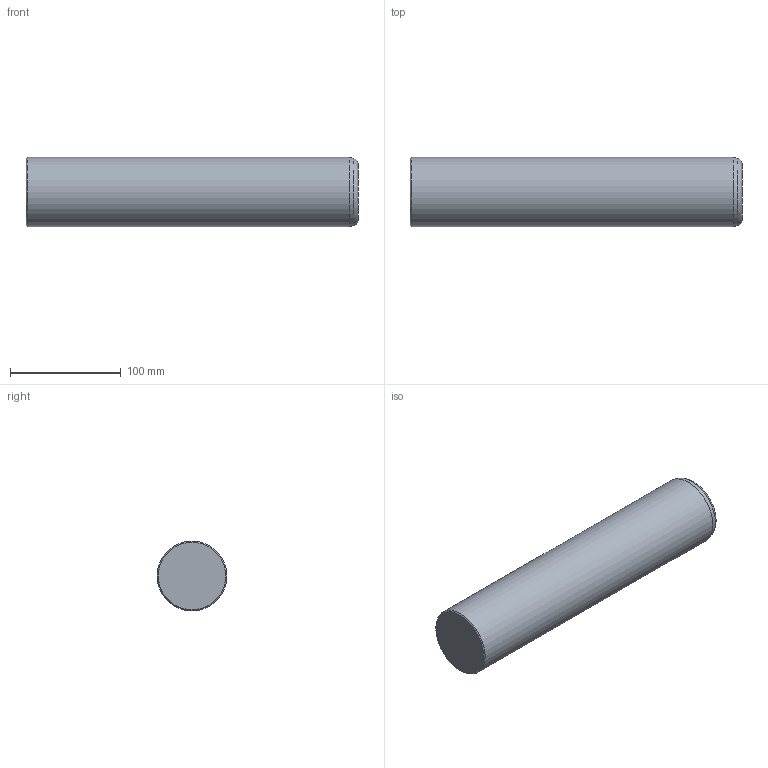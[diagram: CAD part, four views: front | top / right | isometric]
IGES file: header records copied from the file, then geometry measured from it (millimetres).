
Global section: file name: CIS63300.ipt; native system: Autodesk Inventor 2021; preprocessor: unknown; author: SM; date: 20211220.124814; units: millimetre
Bounding box: 300 x 63 x 63 mm (x, y, z)
Volume: 932991.5 mm3; surface area: 64881.2 mm2
Topology: 1 solids, 1 shells, 6 faces, 11 edges, 7 vertices
Faces by surface type: cone 2, plane 2, revolution 1, cylinder 1
Full cylindrical faces by diameter (mm): 63 x1
